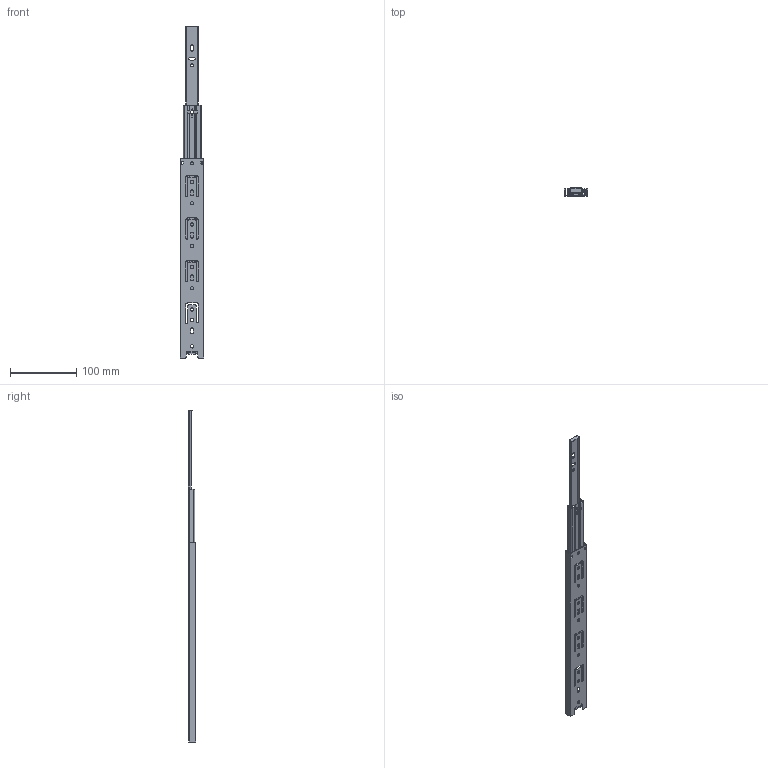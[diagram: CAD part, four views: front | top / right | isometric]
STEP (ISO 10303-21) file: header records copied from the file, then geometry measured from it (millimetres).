
FILE_DESCRIPTION(/* description */ (''),/* implementation_level */ '2;1');
FILE_NAME(/* name */ 'C:\Users\dmitruk\Documents\WORK\\X2\041D0410041F042004100412041B042F042E042904180415\X0\\Шариковые\h35 L-300 AKS LIGHT.stp',/* time_stamp */ '2020-07-27T15:04:15+03:00',/* author */ ('dmitruk'),/* organization */ (''),/* preprocessor_version */ 'ST-DEVELOPER v16.5',/* originating_system */ 'Autodesk Inventor 2017',/* authorisation */ '');
FILE_SCHEMA (('AUTOMOTIVE_DESIGN { 1 0 10303 214 3 1 1 }'));
Length unit declared in the file: millimetre
Products named in the file (5): h35 L-300 AKS LIGHT; h35 L-300 AKS_11; h35 L-300 AKS_12; h35 L-300_13; h35 L-300 AKS_2
Assembly tree (4 placements, depth 2):
  h35 L-300 AKS LIGHT
    h35 L-300 AKS_11
    h35 L-300 AKS_12
    h35 L-300_13
    h35 L-300 AKS_2
Bounding box: 35 x 12.02 x 500 mm (x, y, z)
Volume: 39537.2 mm3; surface area: 78943.6 mm2
Topology: 4 solids, 4 shells, 503 faces, 1454 edges, 956 vertices
Faces by surface type: plane 274, cylinder 205, sphere 24
Full cylindrical faces by diameter (mm): 4.5 x4, 4.9 x9
Entity records: 16970 total; most frequent: CARTESIAN_POINT 3045, DIRECTION 2922, ORIENTED_EDGE 2880, EDGE_CURVE 1440, AXIS2_PLACEMENT_3D 984, VERTEX_POINT 955, LINE 954, VECTOR 954
